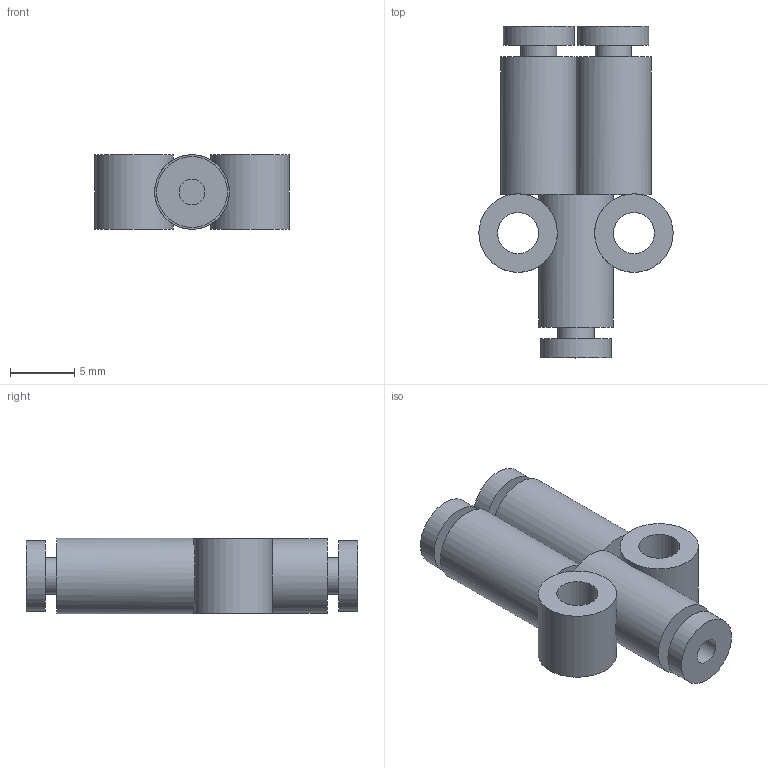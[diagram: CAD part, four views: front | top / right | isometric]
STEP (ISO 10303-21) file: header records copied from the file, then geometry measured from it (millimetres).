
FILE_DESCRIPTION(/* description */ ('STEP AP214'),/* implementation_level */ '2;1');
FILE_NAME(/* name */ 'KQ2U02-00A',/* time_stamp */ '2023-03-09T07:36:56+01:00',/* author */ ('License CC BY-ND 4.0'),/* organization */ ('CADENAS'),/* preprocessor_version */ 'ST-DEVELOPER v18.102',/* originating_system */ 'PARTsolutions',/* authorisation */ ' ');
FILE_SCHEMA (('AUTOMOTIVE_DESIGN {1 0 10303 214 3 1 1}'));
Length unit declared in the file: millimetre
Products named in the file (1): KQ2U02-00A
Bounding box: 15.1 x 25.8 x 5.9 mm (x, y, z)
Volume: 1078.8 mm3; surface area: 1412.7 mm2
Topology: 1 solids, 1 shells, 37 faces, 75 edges, 49 vertices
Faces by surface type: plane 21, cylinder 16
Full cylindrical faces by diameter (mm): 2 x3, 2.8 x3, 3.2 x2, 5.5 x3, 5.8 x1, 6.1 x2
Entity records: 954 total; most frequent: CARTESIAN_POINT 186, DIRECTION 168, ORIENTED_EDGE 110, AXIS2_PLACEMENT_3D 81, EDGE_LOOP 70, FACE_BOUND 70, EDGE_CURVE 55, VERTEX_POINT 45
